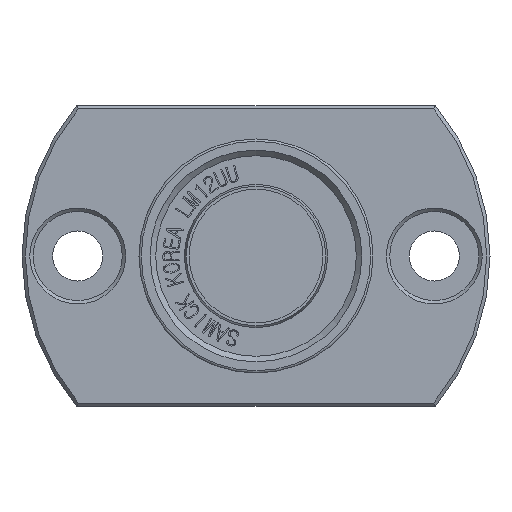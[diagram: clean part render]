
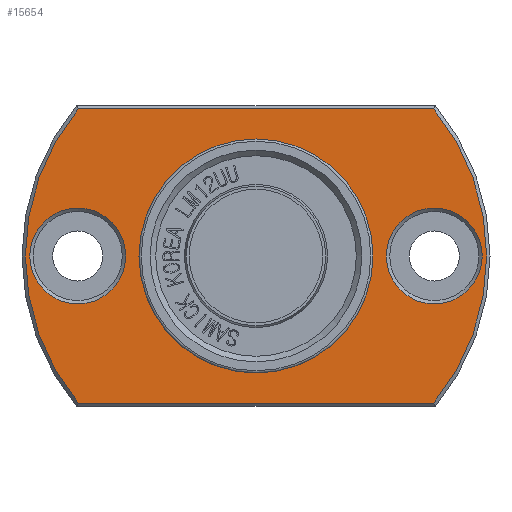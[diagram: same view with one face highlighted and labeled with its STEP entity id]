
A CAD part, front view. The second image highlights one B-rep face of the part: STEP entity #15654.
In plain terms, the highlighted planar face has unit normal (0, -1, 0).
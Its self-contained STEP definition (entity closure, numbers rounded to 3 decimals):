
#2567=FACE_BOUND('',#3703,.T.);
#2568=FACE_BOUND('',#3704,.T.);
#2569=FACE_BOUND('',#3705,.T.);
#2623=PLANE('',#16519);
#2860=FACE_OUTER_BOUND('',#3702,.T.);
#3702=EDGE_LOOP('',(#10902,#10903,#10904,#10905));
#3703=EDGE_LOOP('',(#10906));
#3704=EDGE_LOOP('',(#10907,#10908));
#3705=EDGE_LOOP('',(#10909));
#4600=LINE('',#18651,#5738);
#4601=LINE('',#18655,#5739);
#5738=VECTOR('',#16856,10.);
#5739=VECTOR('',#16859,10.);
#6875=CIRCLE('',#16516,4.3);
#6878=CIRCLE('',#16520,20.7);
#6879=CIRCLE('',#16521,20.7);
#6880=CIRCLE('',#16522,4.3);
#6881=CIRCLE('',#16523,10.5);
#6882=CIRCLE('',#16524,10.5);
#6941=VERTEX_POINT('',#18641);
#6944=VERTEX_POINT('',#18649);
#6945=VERTEX_POINT('',#18650);
#6946=VERTEX_POINT('',#18652);
#6947=VERTEX_POINT('',#18654);
#6948=VERTEX_POINT('',#18657);
#6949=VERTEX_POINT('',#18659);
#6950=VERTEX_POINT('',#18660);
#8525=EDGE_CURVE('',#6941,#6941,#6875,.T.);
#8529=EDGE_CURVE('',#6944,#6945,#4600,.T.);
#8530=EDGE_CURVE('',#6944,#6946,#6878,.T.);
#8531=EDGE_CURVE('',#6947,#6946,#4601,.T.);
#8532=EDGE_CURVE('',#6947,#6945,#6879,.T.);
#8533=EDGE_CURVE('',#6948,#6948,#6880,.T.);
#8534=EDGE_CURVE('',#6949,#6950,#6881,.T.);
#8535=EDGE_CURVE('',#6950,#6949,#6882,.T.);
#10902=ORIENTED_EDGE('',*,*,#8529,.F.);
#10903=ORIENTED_EDGE('',*,*,#8530,.T.);
#10904=ORIENTED_EDGE('',*,*,#8531,.F.);
#10905=ORIENTED_EDGE('',*,*,#8532,.T.);
#10906=ORIENTED_EDGE('',*,*,#8533,.F.);
#10907=ORIENTED_EDGE('',*,*,#8534,.F.);
#10908=ORIENTED_EDGE('',*,*,#8535,.F.);
#10909=ORIENTED_EDGE('',*,*,#8525,.F.);
#15654=ADVANCED_FACE('',(#2860,#2567,#2568,#2569),#2623,.T.);
#16516=AXIS2_PLACEMENT_3D('',#18642,#16847,#16848);
#16519=AXIS2_PLACEMENT_3D('',#18648,#16854,#16855);
#16520=AXIS2_PLACEMENT_3D('',#18653,#16857,#16858);
#16521=AXIS2_PLACEMENT_3D('',#18656,#16860,#16861);
#16522=AXIS2_PLACEMENT_3D('',#18658,#16862,#16863);
#16523=AXIS2_PLACEMENT_3D('',#18661,#16864,#16865);
#16524=AXIS2_PLACEMENT_3D('',#18662,#16866,#16867);
#16847=DIRECTION('center_axis',(0.,-1.,0.));
#16848=DIRECTION('ref_axis',(-1.,0.,0.));
#16854=DIRECTION('center_axis',(0.,-1.,0.));
#16855=DIRECTION('ref_axis',(0.,0.,-1.));
#16856=DIRECTION('',(-1.,0.,0.));
#16857=DIRECTION('center_axis',(0.,-1.,0.));
#16858=DIRECTION('ref_axis',(1.,0.,0.));
#16859=DIRECTION('',(1.,0.,0.));
#16860=DIRECTION('center_axis',(0.,-1.,0.));
#16861=DIRECTION('ref_axis',(1.,0.,0.));
#16862=DIRECTION('center_axis',(0.,-1.,0.));
#16863=DIRECTION('ref_axis',(-1.,0.,0.));
#16864=DIRECTION('center_axis',(0.,-1.,0.));
#16865=DIRECTION('ref_axis',(1.,0.,0.));
#16866=DIRECTION('center_axis',(0.,-1.,0.));
#16867=DIRECTION('ref_axis',(1.,0.,0.));
#18641=CARTESIAN_POINT('',(-11.7,-28.5,0.));
#18642=CARTESIAN_POINT('Origin',(-16.,-28.5,0.));
#18648=CARTESIAN_POINT('Origin',(15.6,-28.5,0.));
#18649=CARTESIAN_POINT('',(15.945,-28.5,-13.2));
#18650=CARTESIAN_POINT('',(-15.945,-28.5,-13.2));
#18651=CARTESIAN_POINT('',(20.3,-28.5,-13.2));
#18652=CARTESIAN_POINT('',(15.945,-28.5,13.2));
#18653=CARTESIAN_POINT('Origin',(0.,-28.5,0.));
#18654=CARTESIAN_POINT('',(-15.945,-28.5,13.2));
#18655=CARTESIAN_POINT('',(-4.7,-28.5,13.2));
#18656=CARTESIAN_POINT('Origin',(0.,-28.5,0.));
#18657=CARTESIAN_POINT('',(20.3,-28.5,0.));
#18658=CARTESIAN_POINT('Origin',(16.,-28.5,0.));
#18659=CARTESIAN_POINT('',(10.5,-28.5,0.));
#18660=CARTESIAN_POINT('',(-10.5,-28.5,0.));
#18661=CARTESIAN_POINT('Origin',(0.,-28.5,0.));
#18662=CARTESIAN_POINT('Origin',(0.,-28.5,0.));
